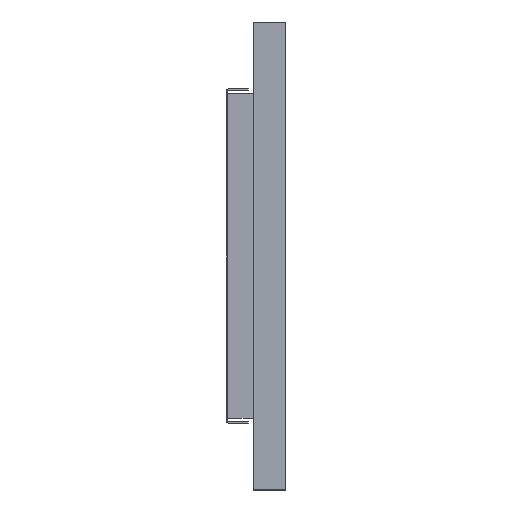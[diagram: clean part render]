
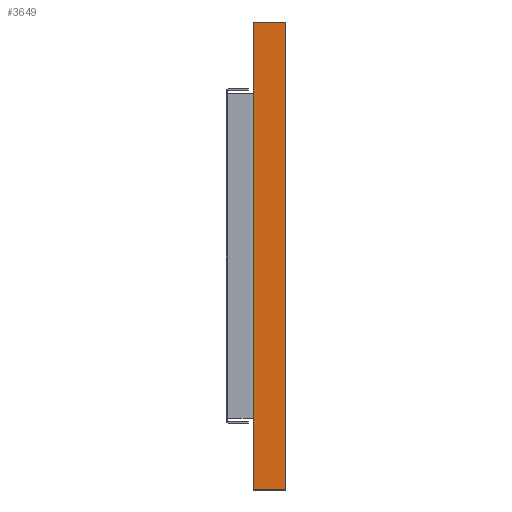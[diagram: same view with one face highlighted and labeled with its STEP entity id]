
A CAD part, left-side view. The second image highlights one B-rep face of the part: STEP entity #3649.
In plain terms, the highlighted planar face has unit normal (-1, 0, 0).
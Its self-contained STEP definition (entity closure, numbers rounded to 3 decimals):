
#27 = DIRECTION ( 'NONE',  ( 0., -1., 0. ) ) ;
#319 = LINE ( 'NONE', #3624, #2110 ) ;
#362 = DIRECTION ( 'NONE',  ( 1., 0., 0. ) ) ;
#366 = EDGE_CURVE ( 'NONE', #529, #830, #1803, .T. ) ;
#529 = VERTEX_POINT ( 'NONE', #2704 ) ;
#688 = CARTESIAN_POINT ( 'NONE',  ( -258.592, -12.233, -36. ) ) ;
#830 = VERTEX_POINT ( 'NONE', #1068 ) ;
#861 = DIRECTION ( 'NONE',  ( 0., 0., -1. ) ) ;
#1068 = CARTESIAN_POINT ( 'NONE',  ( -258.592, -12.233, 36. ) ) ;
#1444 = DIRECTION ( 'NONE',  ( 0., 0., 1. ) ) ;
#1504 = VECTOR ( 'NONE', #1807, 1000. ) ;
#1550 = EDGE_CURVE ( 'NONE', #2157, #830, #2359, .T. ) ;
#1686 = ORIENTED_EDGE ( 'NONE', *, *, #366, .F. ) ;
#1690 = ORIENTED_EDGE ( 'NONE', *, *, #1550, .T. ) ;
#1696 = ORIENTED_EDGE ( 'NONE', *, *, #1780, .T. ) ;
#1740 = LINE ( 'NONE', #2848, #3459 ) ;
#1780 = EDGE_CURVE ( 'NONE', #1966, #2157, #1740, .T. ) ;
#1803 = LINE ( 'NONE', #2044, #3210 ) ;
#1807 = DIRECTION ( 'NONE',  ( 0., 0., 1. ) ) ;
#1966 = VERTEX_POINT ( 'NONE', #2334 ) ;
#2040 = CARTESIAN_POINT ( 'NONE',  ( -258.592, -7.233, -36. ) ) ;
#2044 = CARTESIAN_POINT ( 'NONE',  ( -258.592, -7.233, 36. ) ) ;
#2083 = ORIENTED_EDGE ( 'NONE', *, *, #3214, .F. ) ;
#2110 = VECTOR ( 'NONE', #1444, 1000. ) ;
#2157 = VERTEX_POINT ( 'NONE', #3420 ) ;
#2334 = CARTESIAN_POINT ( 'NONE',  ( -258.592, -7.233, -36. ) ) ;
#2359 = LINE ( 'NONE', #688, #1504 ) ;
#2402 = AXIS2_PLACEMENT_3D ( 'NONE', #2040, #362, #861 ) ;
#2595 = PLANE ( 'NONE',  #2402 ) ;
#2704 = CARTESIAN_POINT ( 'NONE',  ( -258.592, -7.233, 36. ) ) ;
#2848 = CARTESIAN_POINT ( 'NONE',  ( -258.592, -7.233, -36. ) ) ;
#3210 = VECTOR ( 'NONE', #3504, 1000. ) ;
#3214 = EDGE_CURVE ( 'NONE', #1966, #529, #319, .T. ) ;
#3420 = CARTESIAN_POINT ( 'NONE',  ( -258.592, -12.233, -36. ) ) ;
#3450 = FACE_OUTER_BOUND ( 'NONE', #3577, .T. ) ;
#3459 = VECTOR ( 'NONE', #27, 1000. ) ;
#3504 = DIRECTION ( 'NONE',  ( 0., -1., 0. ) ) ;
#3577 = EDGE_LOOP ( 'NONE', ( #1690, #1686, #2083, #1696 ) ) ;
#3624 = CARTESIAN_POINT ( 'NONE',  ( -258.592, -7.233, -36. ) ) ;
#3649 = ADVANCED_FACE ( 'NONE', ( #3450 ), #2595, .F. ) ;
